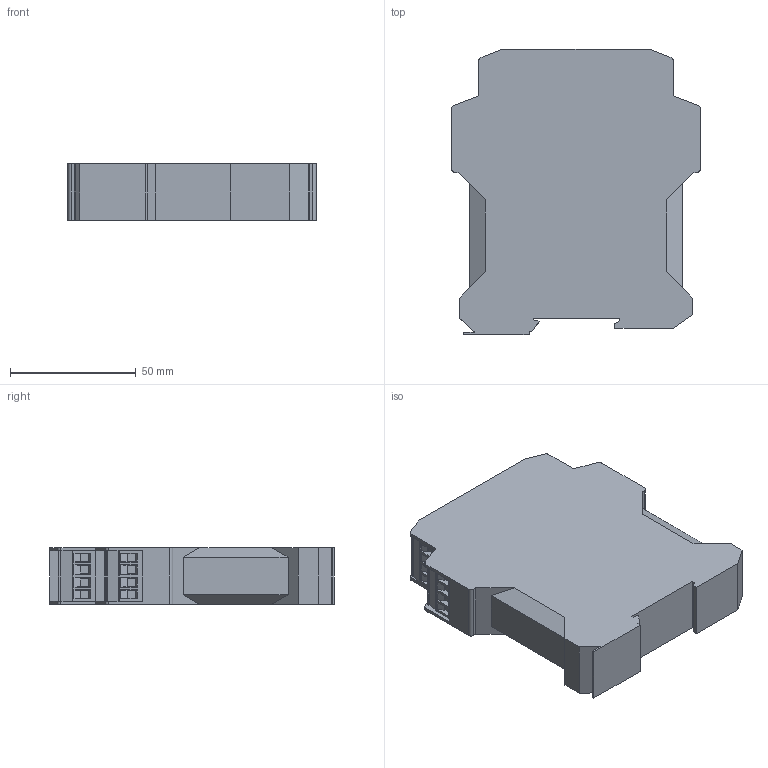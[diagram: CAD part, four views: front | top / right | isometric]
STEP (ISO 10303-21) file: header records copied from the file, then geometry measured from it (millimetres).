
FILE_DESCRIPTION(/* description */ (''),/* implementation_level */ '2;1');
FILE_NAME(/* name */ '3DCAD_MSI_CM52B_01.stp',/* time_stamp */ '2023-05-08T08:02:21+02:00',/* author */ ('CC2'),/* organization */ ('Leuze electronic'),/* preprocessor_version */ 'ST-DEVELOPER v16',/* originating_system */ 'SIEMENS PLM Software NX 11.0',/* authorisation */ '');
FILE_SCHEMA (('AUTOMOTIVE_DESIGN { 1 0 10303 214 3 1 1 1 }'));
Length unit declared in the file: millimetre
Products named in the file (1): 19-102759_00_1-3DCAD_MSI_CM52B_01
Bounding box: 99 x 113.5 x 22.6 mm (x, y, z)
Volume: 213292 mm3; surface area: 30611.1 mm2
Topology: 1 solids, 1 shells, 348 faces, 875 edges, 578 vertices
Faces by surface type: plane 313, cylinder 35
Full cylindrical faces by diameter (mm): 3.7 x1, 4 x16
Entity records: 10664 total; most frequent: CARTESIAN_POINT 1785, ORIENTED_EDGE 1716, DIRECTION 1626, EDGE_CURVE 858, LINE 788, VECTOR 788, VERTEX_POINT 578, AXIS2_PLACEMENT_3D 419
